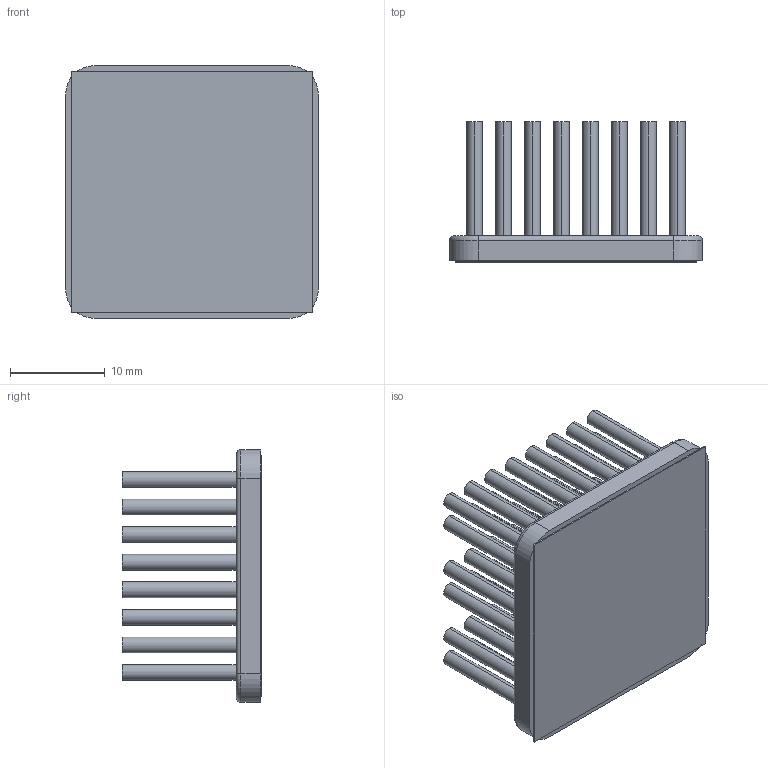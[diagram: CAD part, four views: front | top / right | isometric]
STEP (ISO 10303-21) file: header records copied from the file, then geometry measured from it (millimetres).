
FILE_DESCRIPTION (( 'STEP AP214' ), '1' );
FILE_NAME ('INM27002-15PCU-2.6.STEP', '2023-03-02T23:44:27', ( '' ), ( '' ), 'SwSTEP 2.0', 'SolidWorks 2020', '' );
FILE_SCHEMA (( 'AUTOMOTIVE_DESIGN' ));
Length unit declared in the file: inch
Products named in the file (1): INM27002-15PCU-2.6
Bounding box: 26.6 x 14.73 x 26.6 mm (x, y, z)
Volume: 3333 mm3; surface area: 6427.7 mm2
Topology: 2 solids, 2 shells, 192 faces, 388 edges, 256 vertices
Faces by surface type: cylinder 120, plane 68, torus 4
Entity records: 7679 total; most frequent: DIRECTION 1018, CARTESIAN_POINT 837, ORIENTED_EDGE 776, AXIS2_PLACEMENT_3D 437, EDGE_CURVE 388, VERTEX_POINT 256, EDGE_LOOP 248, CIRCLE 244
